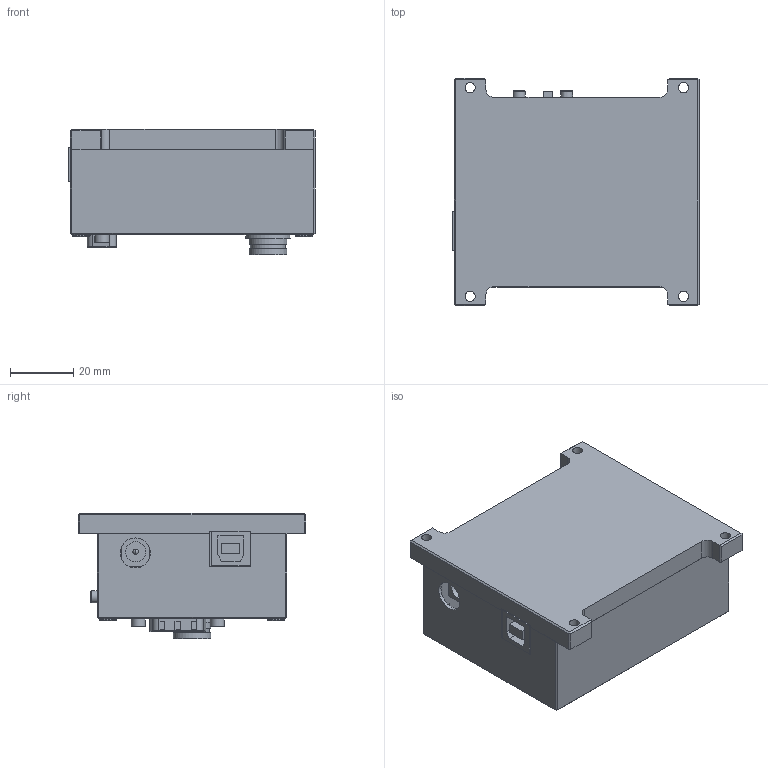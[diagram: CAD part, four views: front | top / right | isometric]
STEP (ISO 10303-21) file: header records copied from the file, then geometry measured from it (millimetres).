
FILE_DESCRIPTION(/* description */ (''),/* implementation_level */ '2;1');
FILE_NAME(/* name */ 'C:\Users\dblandino\Desktop\C1115_002_000_STP.stp',/* time_stamp */ '2021-05-04T16:04:29+02:00',/* author */ ('dblandino'),/* organization */ (''),/* preprocessor_version */ 'ST-DEVELOPER v18.1',/* originating_system */ 'Autodesk Inventor 2021',/* authorisation */ '');
FILE_SCHEMA (('AUTOMOTIVE_DESIGN { 1 0 10303 214 3 1 1 }'));
Length unit declared in the file: millimetre
Products named in the file (1): C1115_002_000_STP
Bounding box: 78 x 72 x 39.8 mm (x, y, z)
Volume: 53287.8 mm3; surface area: 64074.7 mm2
Topology: 16 solids, 16 shells, 1124 faces, 2798 edges, 1812 vertices
Faces by surface type: plane 732, cylinder 262, bspline 71, torus 29, cone 22, sphere 8
Full cylindrical faces by diameter (mm): 0.5 x6, 0.61 x15, 1 x13, 1.143 x10, 1.321 x10, 1.567 x2, 1.65 x1, 2 x2, 2.2 x5, 2.459 x4, 2.5 x2, 3 x4, 3.048 x2, 3.1 x2, 3.2 x6, 3.3 x4, 3.8 x2, 4 x2, 4.5 x2, 5.5 x4, 6 x4, 6.4 x1, 8 x1, 9.5 x1, 11 x2, 11.1 x1, 11.9 x2, 14 x1
Entity records: 38221 total; most frequent: CARTESIAN_POINT 10324, ORIENTED_EDGE 5548, DIRECTION 5245, EDGE_CURVE 2774, LINE 1919, VECTOR 1919, VERTEX_POINT 1812, AXIS2_PLACEMENT_3D 1663
